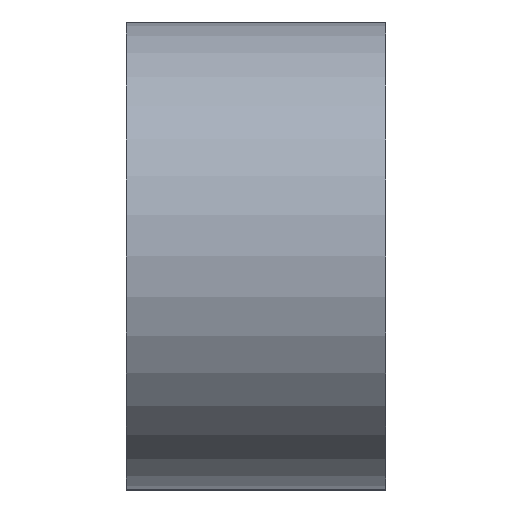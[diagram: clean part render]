
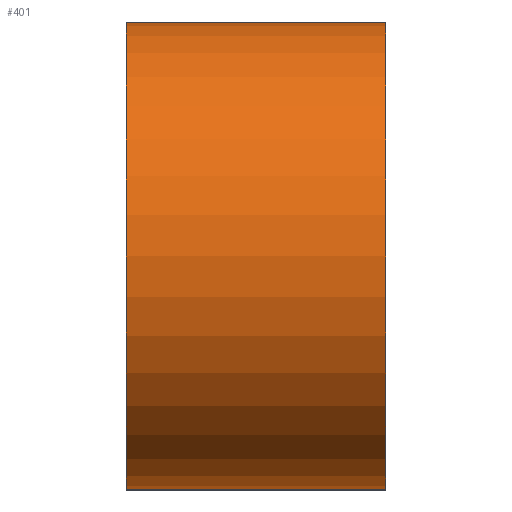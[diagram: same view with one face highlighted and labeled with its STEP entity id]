
A CAD part, left-side view. The second image highlights one B-rep face of the part: STEP entity #401.
In plain terms, the highlighted cylindrical face has radius 9 mm (diameter 18 mm), a partial arc.
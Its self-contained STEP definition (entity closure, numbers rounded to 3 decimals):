
#19=CYLINDRICAL_SURFACE('',#468,9.);
#57=FACE_OUTER_BOUND('',#87,.T.);
#87=EDGE_LOOP('',(#357,#358,#359,#360));
#121=LINE('',#700,#155);
#122=LINE('',#701,#156);
#155=VECTOR('',#586,10.);
#156=VECTOR('',#587,10.);
#161=CIRCLE('',#432,9.);
#171=CIRCLE('',#447,9.);
#182=VERTEX_POINT('',#605);
#183=VERTEX_POINT('',#607);
#194=VERTEX_POINT('',#639);
#197=VERTEX_POINT('',#644);
#215=EDGE_CURVE('',#182,#183,#161,.T.);
#234=EDGE_CURVE('',#197,#194,#171,.T.);
#261=EDGE_CURVE('',#194,#182,#121,.T.);
#262=EDGE_CURVE('',#183,#197,#122,.T.);
#357=ORIENTED_EDGE('',*,*,#261,.F.);
#358=ORIENTED_EDGE('',*,*,#234,.F.);
#359=ORIENTED_EDGE('',*,*,#262,.F.);
#360=ORIENTED_EDGE('',*,*,#215,.F.);
#401=ADVANCED_FACE('',(#57),#19,.T.);
#432=AXIS2_PLACEMENT_3D('',#608,#484,#485);
#447=AXIS2_PLACEMENT_3D('',#646,#523,#524);
#468=AXIS2_PLACEMENT_3D('',#699,#584,#585);
#484=DIRECTION('center_axis',(0.,-1.,0.));
#485=DIRECTION('ref_axis',(0.,0.,-1.));
#523=DIRECTION('center_axis',(0.,1.,0.));
#524=DIRECTION('ref_axis',(0.,0.,-1.));
#584=DIRECTION('center_axis',(0.,1.,0.));
#585=DIRECTION('ref_axis',(0.,0.,-1.));
#586=DIRECTION('',(0.,-1.,0.));
#587=DIRECTION('',(0.,1.,0.));
#605=CARTESIAN_POINT('',(-82.,-5.,9.));
#607=CARTESIAN_POINT('',(-82.,-5.,-9.));
#608=CARTESIAN_POINT('Origin',(-82.,-5.,0.));
#639=CARTESIAN_POINT('',(-82.,5.,9.));
#644=CARTESIAN_POINT('',(-82.,5.,-9.));
#646=CARTESIAN_POINT('Origin',(-82.,5.,0.));
#699=CARTESIAN_POINT('Origin',(-82.,0.,0.));
#700=CARTESIAN_POINT('',(-82.,0.,9.));
#701=CARTESIAN_POINT('',(-82.,0.,-9.));
